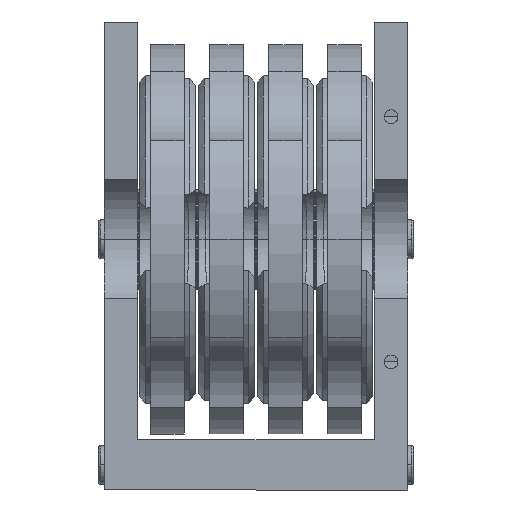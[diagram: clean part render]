
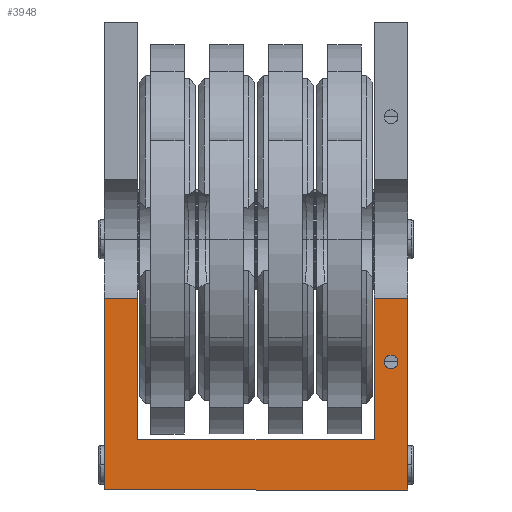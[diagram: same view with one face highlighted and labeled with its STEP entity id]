
A CAD part, left-side view. The second image highlights one B-rep face of the part: STEP entity #3948.
In plain terms, the highlighted planar face has unit normal (-1, 0, 0).
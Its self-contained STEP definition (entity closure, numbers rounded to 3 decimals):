
#3711 = VERTEX_POINT ( 'NONE', #14460 ) ;
#3713 = EDGE_CURVE ( 'NONE', #3714, #3711, #14459, .T. ) ;
#3714 = VERTEX_POINT ( 'NONE', #14455 ) ;
#3721 = VERTEX_POINT ( 'NONE', #14438 ) ;
#3732 = EDGE_CURVE ( 'NONE', #4362, #4365, #14496, .T. ) ;
#3757 = VERTEX_POINT ( 'NONE', #14514 ) ;
#3763 = EDGE_CURVE ( 'NONE', #3721, #3764, #14513, .T. ) ;
#3764 = VERTEX_POINT ( 'NONE', #14509 ) ;
#3780 = EDGE_CURVE ( 'NONE', #3781, #3721, #14508, .T. ) ;
#3781 = VERTEX_POINT ( 'NONE', #14504 ) ;
#3809 = EDGE_CURVE ( 'NONE', #3757, #3714, #14540, .T. ) ;
#3821 = EDGE_CURVE ( 'NONE', #3764, #3757, #14536, .T. ) ;
#3845 = EDGE_CURVE ( 'NONE', #3711, #3868, #14639, .T. ) ;
#3868 = VERTEX_POINT ( 'NONE', #14615 ) ;
#3893 = EDGE_CURVE ( 'NONE', #3894, #3781, #14672, .T. ) ;
#3894 = VERTEX_POINT ( 'NONE', #14668 ) ;
#3932 = ORIENTED_EDGE ( 'NONE', *, *, #3893, .T. ) ;
#3933 = ORIENTED_EDGE ( 'NONE', *, *, #3780, .T. ) ;
#3934 = ORIENTED_EDGE ( 'NONE', *, *, #3763, .T. ) ;
#3935 = EDGE_LOOP ( 'NONE', ( #3936, #3937 ) ) ;
#3936 = ORIENTED_EDGE ( 'NONE', *, *, #4364, .T. ) ;
#3937 = ORIENTED_EDGE ( 'NONE', *, *, #3732, .T. ) ;
#3948 = ADVANCED_FACE ( 'NONE', ( #14689, #14688 ), #14687, .T. ) ;
#3949 = EDGE_LOOP ( 'NONE', ( #3950, #3951, #3952, #3953, #3954, #3932, #3933, #3934 ) ) ;
#3950 = ORIENTED_EDGE ( 'NONE', *, *, #3821, .T. ) ;
#3951 = ORIENTED_EDGE ( 'NONE', *, *, #3809, .T. ) ;
#3952 = ORIENTED_EDGE ( 'NONE', *, *, #3713, .T. ) ;
#3953 = ORIENTED_EDGE ( 'NONE', *, *, #3845, .T. ) ;
#3954 = ORIENTED_EDGE ( 'NONE', *, *, #3955, .F. ) ;
#3955 = EDGE_CURVE ( 'NONE', #3894, #3868, #14682, .T. ) ;
#4362 = VERTEX_POINT ( 'NONE', #15598 ) ;
#4364 = EDGE_CURVE ( 'NONE', #4365, #4362, #15597, .T. ) ;
#4365 = VERTEX_POINT ( 'NONE', #15592 ) ;
#14438 = CARTESIAN_POINT ( 'NONE',  ( 0., 0., 34.335 ) ) ;
#14455 = CARTESIAN_POINT ( 'NONE',  ( 0., 42.5, 34.335 ) ) ;
#14456 = DIRECTION ( 'NONE',  ( 0., 1., 0. ) ) ;
#14457 = VECTOR ( 'NONE', #14456, 1000. ) ;
#14458 = CARTESIAN_POINT ( 'NONE',  ( 0., 42.5, 34.335 ) ) ;
#14459 = LINE ( 'NONE', #14458, #14457 ) ;
#14460 = CARTESIAN_POINT ( 'NONE',  ( 0., 48.5, 34.335 ) ) ;
#14492 = DIRECTION ( 'NONE',  ( 0., 0., 1. ) ) ;
#14493 = DIRECTION ( 'NONE',  ( 1., 0., 0. ) ) ;
#14494 = CARTESIAN_POINT ( 'NONE',  ( 0., -3., 23. ) ) ;
#14495 = AXIS2_PLACEMENT_3D ( 'NONE', #14494, #14493, #14492 ) ;
#14496 = CIRCLE ( 'NONE', #14495, 1.23 ) ;
#14504 = CARTESIAN_POINT ( 'NONE',  ( 0., -6., 34.335 ) ) ;
#14505 = DIRECTION ( 'NONE',  ( 0., 1., 0. ) ) ;
#14506 = VECTOR ( 'NONE', #14505, 1000. ) ;
#14507 = CARTESIAN_POINT ( 'NONE',  ( 0., 42.5, 34.335 ) ) ;
#14508 = LINE ( 'NONE', #14507, #14506 ) ;
#14509 = CARTESIAN_POINT ( 'NONE',  ( 0., 0., 9. ) ) ;
#14510 = DIRECTION ( 'NONE',  ( 0., 0., -1. ) ) ;
#14511 = VECTOR ( 'NONE', #14510, 1000. ) ;
#14512 = CARTESIAN_POINT ( 'NONE',  ( 0., 0., 84. ) ) ;
#14513 = LINE ( 'NONE', #14512, #14511 ) ;
#14514 = CARTESIAN_POINT ( 'NONE',  ( 0., 42.5, 9. ) ) ;
#14533 = DIRECTION ( 'NONE',  ( 0., 1., 0. ) ) ;
#14534 = VECTOR ( 'NONE', #14533, 1000. ) ;
#14535 = CARTESIAN_POINT ( 'NONE',  ( 0., 42.5, 9. ) ) ;
#14536 = LINE ( 'NONE', #14535, #14534 ) ;
#14537 = DIRECTION ( 'NONE',  ( 0., 0., 1. ) ) ;
#14538 = VECTOR ( 'NONE', #14537, 1000. ) ;
#14539 = CARTESIAN_POINT ( 'NONE',  ( 0., 42.5, 84. ) ) ;
#14540 = LINE ( 'NONE', #14539, #14538 ) ;
#14615 = CARTESIAN_POINT ( 'NONE',  ( 0., 48.5, 0. ) ) ;
#14636 = DIRECTION ( 'NONE',  ( 0., 0., -1. ) ) ;
#14637 = VECTOR ( 'NONE', #14636, 1000. ) ;
#14638 = CARTESIAN_POINT ( 'NONE',  ( 0., 48.5, 84. ) ) ;
#14639 = LINE ( 'NONE', #14638, #14637 ) ;
#14668 = CARTESIAN_POINT ( 'NONE',  ( 0., -6., 0. ) ) ;
#14669 = DIRECTION ( 'NONE',  ( 0., 0., 1. ) ) ;
#14670 = VECTOR ( 'NONE', #14669, 1000. ) ;
#14671 = CARTESIAN_POINT ( 'NONE',  ( 0., -6., 84. ) ) ;
#14672 = LINE ( 'NONE', #14671, #14670 ) ;
#14679 = DIRECTION ( 'NONE',  ( 0., 1., 0. ) ) ;
#14680 = VECTOR ( 'NONE', #14679, 1000. ) ;
#14681 = CARTESIAN_POINT ( 'NONE',  ( 0., 42.5, 0. ) ) ;
#14682 = LINE ( 'NONE', #14681, #14680 ) ;
#14683 = DIRECTION ( 'NONE',  ( 0., -1., 0. ) ) ;
#14684 = DIRECTION ( 'NONE',  ( -1., 0., 0. ) ) ;
#14685 = CARTESIAN_POINT ( 'NONE',  ( 0., 42.5, 84. ) ) ;
#14686 = AXIS2_PLACEMENT_3D ( 'NONE', #14685, #14684, #14683 ) ;
#14687 = PLANE ( 'NONE',  #14686 ) ;
#14688 = FACE_BOUND ( 'NONE', #3935, .T. ) ;
#14689 = FACE_OUTER_BOUND ( 'NONE', #3949, .T. ) ;
#15592 = CARTESIAN_POINT ( 'NONE',  ( 0., -3., 24.229 ) ) ;
#15593 = DIRECTION ( 'NONE',  ( 0., 0., 1. ) ) ;
#15594 = DIRECTION ( 'NONE',  ( 1., 0., 0. ) ) ;
#15595 = CARTESIAN_POINT ( 'NONE',  ( 0., -3., 23. ) ) ;
#15596 = AXIS2_PLACEMENT_3D ( 'NONE', #15595, #15594, #15593 ) ;
#15597 = CIRCLE ( 'NONE', #15596, 1.23 ) ;
#15598 = CARTESIAN_POINT ( 'NONE',  ( 0., -3., 21.77 ) ) ;
